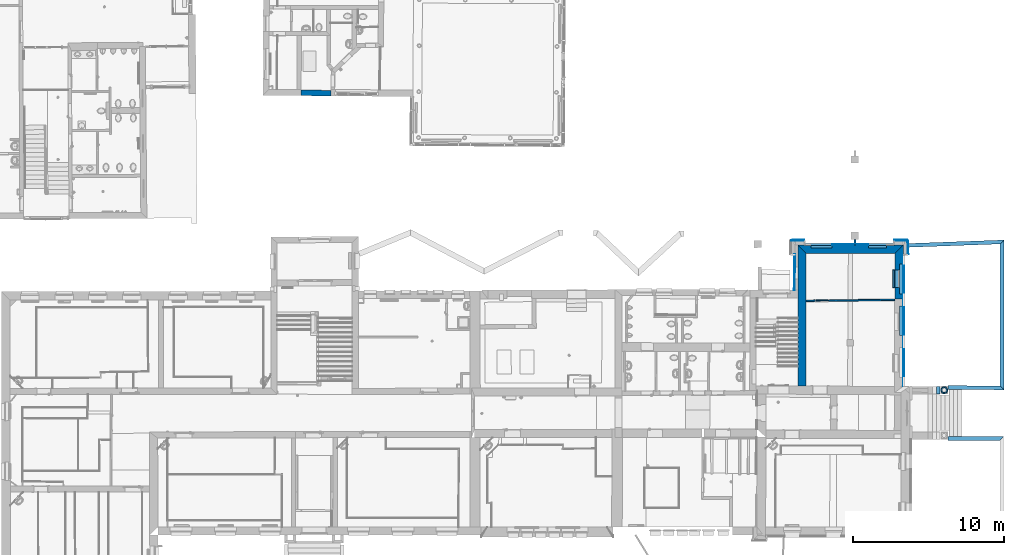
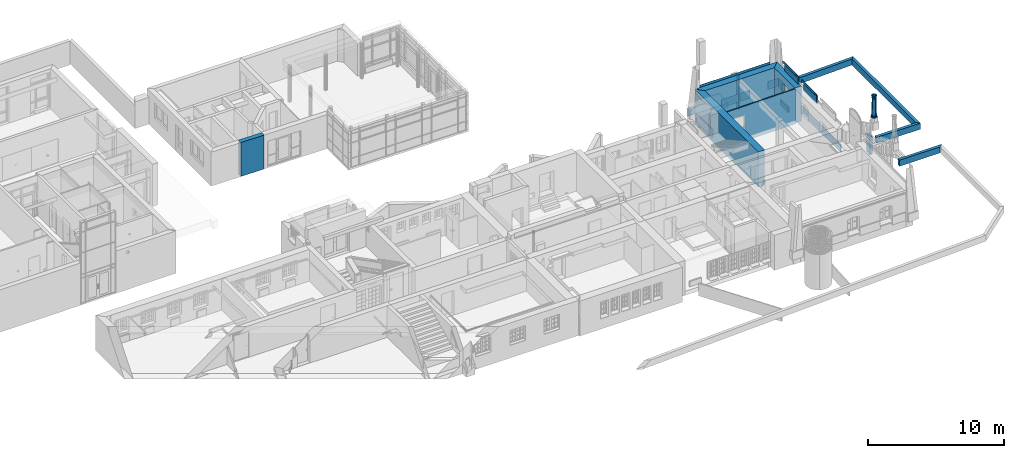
# One storey, part 54 of 196: 23 walls, 4 openings.
"""IFC2X3 building model written with IfcOpenShell, lengths in metres."""

from ifc_helpers import new_model, entity, si_unit, converted_unit, derived_unit, money_unit, point, direction, frame, frame_2d, origin_with_axes, origin_2d_with_axis, place, context, subcontext, project, spatial, polyline, circle_curve, parameter, trimmed, segment, composite_curve, rectangle, outline, extrude, material, layer, layer_set, layer_usage, type_object, element, save


model = new_model("IFC2X3")

# Units and contexts
model_context = context("Model", 3, precision=1e-05, world=origin_with_axes(), true_north=direction((0.0, 1.0)))
body_context = subcontext(model_context, "Body", "Model", "MODEL_VIEW")
ifc_project = project(units=[si_unit("LENGTHUNIT", "METRE"), si_unit("AREAUNIT", "SQUARE_METRE"), si_unit("VOLUMEUNIT", "CUBIC_METRE"), converted_unit("PLANEANGLEUNIT", "DEGREE", entity("IfcPlaneAngleMeasure", 0.0174532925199), si_unit("PLANEANGLEUNIT", "RADIAN"), dimensions=[0, 0, 0, 0, 0, 0, 0]), money_unit("EUR"), converted_unit("TIMEUNIT", "Year", entity("IfcTimeMeasure", 31556926.0), si_unit("TIMEUNIT", "SECOND"), dimensions=[0, 0, 1, 0, 0, 0, 0]), si_unit("MASSUNIT", "GRAM", prefix="KILO"), si_unit("THERMODYNAMICTEMPERATUREUNIT", "DEGREE_CELSIUS"), si_unit("LUMINOUSINTENSITYUNIT", "LUMEN"), si_unit("ENERGYUNIT", "JOULE", prefix="MEGA"), derived_unit("THERMALCONDUCTANCEUNIT", [(si_unit("POWERUNIT", "WATT"), 1), (si_unit("LENGTHUNIT", "METRE"), -1), (si_unit("THERMODYNAMICTEMPERATUREUNIT", "KELVIN"), -1)]), derived_unit("SPECIFICHEATCAPACITYUNIT", [(si_unit("ENERGYUNIT", "JOULE"), 1), (si_unit("MASSUNIT", "GRAM", prefix="KILO"), -1), (si_unit("THERMODYNAMICTEMPERATUREUNIT", "KELVIN"), -1)]), derived_unit("MASSDENSITYUNIT", [(si_unit("MASSUNIT", "GRAM", prefix="KILO"), 1), (si_unit("VOLUMEUNIT", "CUBIC_METRE"), -1)])], contexts=[model_context])

# Site, building, storey
site_placement = place(None, origin_with_axes())
site = spatial("IfcSite", under=ifc_project, at=site_placement, Name="Gelände", CompositionType="ELEMENT")
building_placement = place(site_placement, origin_with_axes())
building = spatial("IfcBuilding", under=site, at=building_placement, Name="Gebäude", CompositionType="ELEMENT")
storey_placement = place(building_placement, frame((0.0, 0.0, -3.0), z_axis=(0.0, 0.0, 1.0), x_axis=(1.0, 0.0, 0.0)))
storey = spatial("IfcBuildingStorey", under=building, at=storey_placement, Name="KELLERGESCHOSS", CompositionType="ELEMENT", Elevation=-3.0)

# Wall, opening
ifc_material_1 = material(Name="05_ALLGEMEIN - TRAGENDE BAUTEILE")
ifc_layer_1 = layer(ifc_material_1, 0.1, ventilated="UNKNOWN")
ifc_layer_set_1 = layer_set([ifc_layer_1], Name="05_ALLGEMEIN - TRAGENDE BAUTEILE 0.1")
ifc_layer_usage_1 = layer_usage(ifc_layer_set_1, "AXIS2", "POSITIVE", -0.1)
wall_type_1 = type_object("IfcWallType", Name="05_ALLGEMEIN - TRAGENDE BAUTEILE 100", PredefinedType="ELEMENTEDWALL")
wall_1_placement = place(storey_placement, frame((24.6727134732, 25.5107792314, -0.36), z_axis=(0.0, 0.0, 1.0), x_axis=(0.999936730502, 0.0112487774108, 0.0)))
wall_1 = element("IfcWallStandardCase", 1, at=wall_1_placement, inside=storey, type_object=wall_type_1, material=ifc_layer_usage_1, Name="Wand-039", ObjectType="ELEMENTEDWALL", context=body_context, shape_type="SweptSolid", body=[
    extrude(outline(polyline([(0.553286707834, -0.1), (6.42175266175, -0.1), (6.42284391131, 0.0), (0.554426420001, 0.0), (0.553286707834, -0.1)])), origin_with_axes(), (0.0, 0.0, 1.0), 3.15),
])
opening_1_placement = place(wall_1_placement, frame((1.60711637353, 0.0, 0.333848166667), z_axis=(0.0, 0.0, 1.0), x_axis=(1.0, 0.0, 0.0)))
element("IfcOpeningElement", 2, at=opening_1_placement, cuts=wall_1, Name="Tür-022", context=body_context, shape_type="SweptSolid", body=[
    extrude(rectangle(XDim=0.850611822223, YDim=2.00126, at=origin_2d_with_axis()), frame((0.0, -0.1, 1.00063), z_axis=(0.0, 1.0, 0.0), x_axis=(-1.0, 0.0, 0.0)), (0.0, 0.0, 1.0), 0.3),
])

# Walls
ifc_layer_2 = layer(ifc_material_1, 0.250000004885, ventilated="UNKNOWN")
ifc_layer_set_2 = layer_set([ifc_layer_2], Name="05_ALLGEMEIN - TRAGENDE BAUTEILE 0.25")
ifc_layer_usage_2 = layer_usage(ifc_layer_set_2, "AXIS2", "POSITIVE", 0.0)
wall_type_2 = type_object("IfcWallType", Name="05_ALLGEMEIN - TRAGENDE BAUTEILE 250", PredefinedType="ELEMENTEDWALL")
wall_2_placement = place(storey_placement, frame((34.6361364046, 19.5986464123, 0.212), z_axis=(0.0, 0.0, 1.0), x_axis=(0.999963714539, -0.00851877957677, 0.0)))
element("IfcWallStandardCase", 3, at=wall_2_placement, inside=storey, type_object=wall_type_2, material=ifc_layer_usage_2, Name="Wand-034", ObjectType="ELEMENTEDWALL", context=body_context, shape_type="SweptSolid", body=[
    extrude(outline(polyline([(0.0, 0.0), (3.69503077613, 0.0), (3.44314111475, 0.25), (0.0, 0.25), (0.0, 0.0)])), origin_with_axes(), (0.0, 0.0, 1.0), 0.55),
])
ifc_layer_usage_3 = layer_usage(ifc_layer_set_2, "AXIS2", "POSITIVE", 0.0)
wall_3_placement = place(storey_placement, frame((38.3310331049, 19.5671692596, 0.212), z_axis=(0.0, 0.0, 1.0), x_axis=(0.000988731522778, 0.999999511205, 0.0)))
element("IfcWallStandardCase", 4, at=wall_3_placement, inside=storey, type_object=wall_type_2, material=ifc_layer_usage_3, Name="Wand-035", ObjectType="ELEMENTEDWALL", context=body_context, shape_type="SweptSolid", body=[
    extrude(outline(polyline([(0.0, 0.0), (9.93154095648, 0.0), (9.67196997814, 0.25), (0.251889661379, 0.25), (0.0, 0.0)])), origin_with_axes(), (0.0, 0.0, 1.0), 0.55),
])
ifc_layer_usage_4 = layer_usage(ifc_layer_set_2, "AXIS2", "POSITIVE", 0.0)
wall_4_placement = place(storey_placement, frame((38.3408527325, 29.4987053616, 0.212), z_axis=(0.0, 0.0, 1.0), x_axis=(-0.999331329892, -0.0365635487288, 0.0)))
element("IfcWallStandardCase", 5, at=wall_4_placement, inside=storey, type_object=wall_type_2, material=ifc_layer_usage_4, Name="Wand-036", ObjectType="ELEMENTEDWALL", context=body_context, shape_type="SweptSolid", body=[
    extrude(outline(polyline([(0.0, 0.0), (6.33317379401, 0.0), (6.33317379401, 0.25), (0.259570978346, 0.25), (0.0, 0.0)])), origin_with_axes(), (0.0, 0.0, 1.0), 0.55),
])
ifc_layer_usage_5 = layer_usage(ifc_layer_set_2, "AXIS2", "POSITIVE", 0.0)
wall_5_placement = place(storey_placement, frame((34.6292741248, 16.2091750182, 0.212), z_axis=(0.0, 0.0, 1.0), x_axis=(0.9999999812, -0.000193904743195, 0.0)))
element("IfcWallStandardCase", 6, at=wall_5_placement, inside=storey, type_object=wall_type_2, material=ifc_layer_usage_5, Name="Wand-037", ObjectType="ELEMENTEDWALL", context=body_context, shape_type="SweptSolid", body=[
    extrude(outline(polyline([(0.0, 0.0), (3.43821380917, 0.0), (3.68821380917, 0.25), (0.0, 0.25), (0.0, 0.0)])), origin_with_axes(), (0.0, 0.0, 1.0), 0.55),
])
ifc_material_2 = material(Name="01_ALLGEMEIN - BAUTEIL")
ifc_layer_3 = layer(ifc_material_2, 0.105, ventilated="UNKNOWN")
ifc_layer_set_3 = layer_set([ifc_layer_3], Name="01_ALLGEMEIN - BAUTEIL 0.105")
ifc_layer_usage_6 = layer_usage(ifc_layer_set_3, "AXIS2", "NEGATIVE", 0.0)
wall_type_3 = type_object("IfcWallType", Name="01_ALLGEMEIN - BAUTEIL 105", PredefinedType="ELEMENTEDWALL")
wall_6_placement = place(storey_placement, frame((30.9806363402, 26.3287274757, 0.147079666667), z_axis=(0.0, 0.0, 1.0), x_axis=(-0.00214551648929, 0.999997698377, 0.0)))
element("IfcWallStandardCase", 7, at=wall_6_placement, inside=storey, type_object=wall_type_3, material=ifc_layer_usage_6, Name="Wand-039", ObjectType="ELEMENTEDWALL", context=body_context, shape_type="SweptSolid", body=[
    extrude(outline(polyline([(0.0, -0.105), (1.19556545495, -0.105), (1.19556545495, 0.0), (0.0, 0.0), (0.0, -0.105)])), origin_with_axes(), (0.0, 0.0, 1.0), 0.485031),
])

# Wall, openings
ifc_layer_4 = layer(ifc_material_1, 0.56, ventilated="UNKNOWN")
ifc_layer_set_4 = layer_set([ifc_layer_4], Name="05_ALLGEMEIN - TRAGENDE BAUTEILE 0.56")
ifc_layer_usage_7 = layer_usage(ifc_layer_set_4, "AXIS2", "NEGATIVE", 0.56)
wall_type_4 = type_object("IfcWallType", Name="05_ALLGEMEIN - TRAGENDE BAUTEILE 560", PredefinedType="ELEMENTEDWALL")
wall_7_placement = place(storey_placement, frame((31.6739429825, 29.1682988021, -0.36), z_axis=(0.0, 0.0, 1.0), x_axis=(-0.999999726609, -0.000739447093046, 0.0)))
wall_7 = element("IfcWallStandardCase", 8, at=wall_7_placement, inside=storey, type_object=wall_type_4, material=ifc_layer_usage_7, Name="Wand-030", ObjectType="ELEMENTEDWALL", context=body_context, shape_type="SweptSolid", body=[
    extrude(outline(polyline([(0.0, 0.0), (7.00069228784, 0.0), (6.44679840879, 0.56), (0.560225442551, 0.56), (0.0, 0.0)])), origin_with_axes(), (0.0, 0.0, 1.0), 3.15),
])
opening_2_placement = place(wall_7_placement, frame((5.43124934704, 0.0, 0.697155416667), z_axis=(0.0, 0.0, 1.0), x_axis=(1.0, 0.0, 0.0)))
element("IfcOpeningElement", 9, at=opening_2_placement, cuts=wall_7, Name="Fenster-015", ObjectType="Recess", context=body_context, shape_type="SweptSolid", body=[
    extrude(outline(polyline([(-0.698111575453, 0.0), (-0.698111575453, -1.80799998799), (-0.47839749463, -1.91444294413), (-0.243146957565, -1.97972363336), (8.41109260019e-09, -2.001722), (0.243146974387, -1.97972363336), (0.478397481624, -1.91444294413), (0.698111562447, -1.80799998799), (0.698112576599, -1.8079000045), (0.698111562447, 0.0), (-0.698111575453, 0.0)])), frame((0.0, 0.207501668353, 0.0), z_axis=(0.0, -1.0, 0.0), x_axis=(-1.0, 0.0, 0.0)), (0.0, 0.0, 1.0), 0.767501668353),
])
opening_3_placement = place(wall_7_placement, frame((1.72561533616, 0.0, 0.697155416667), z_axis=(0.0, 0.0, 1.0), x_axis=(1.0, 0.0, 0.0)))
element("IfcOpeningElement", 10, at=opening_3_placement, cuts=wall_7, Name="Fenster-015", ObjectType="Recess", context=body_context, shape_type="SweptSolid", body=[
    extrude(outline(polyline([(-0.6, 0.0), (-0.6, -1.80799998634), (-0.442725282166, -1.90128984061), (-0.271388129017, -1.96517968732), (-0.0914307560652, -1.99764011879), (0.0914307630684, -1.99764011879), (0.27138813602, -1.96517968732), (0.442725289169, -1.90128984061), (0.600000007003, -1.80799998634), (0.60000098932, -1.80789999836), (0.600000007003, 0.0), (-0.6, 0.0)])), frame((0.0, 0.207501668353, 0.0), z_axis=(0.0, -1.0, 0.0), x_axis=(-1.0, 0.0, 0.0)), (0.0, 0.0, 1.0), 0.767501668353),
])

# Wall, opening
ifc_layer_usage_8 = layer_usage(ifc_layer_set_4, "AXIS2", "NEGATIVE", 0.56)
wall_8_placement = place(storey_placement, frame((31.6751488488, 25.5895530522, -0.36), z_axis=(0.0, 0.0, 1.0), x_axis=(-0.000336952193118, 0.999999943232, 0.0)))
wall_8 = element("IfcWallStandardCase", 11, at=wall_8_placement, inside=storey, type_object=wall_type_4, material=ifc_layer_usage_8, Name="Wand-038", ObjectType="ELEMENTEDWALL", context=body_context, shape_type="SweptSolid", body=[
    extrude(outline(polyline([(0.0, 0.0), (3.57874595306, 0.0), (3.01852051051, 0.56), (0.0, 0.56), (0.0, 0.0)])), origin_with_axes(), (0.0, 0.0, 1.0), 3.15),
])
opening_4_placement = place(wall_8_placement, frame((1.33445511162, 0.0, 1.39579666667), z_axis=(0.0, 0.0, 1.0), x_axis=(1.0, 0.0, 0.0)))
element("IfcOpeningElement", 12, at=opening_4_placement, cuts=wall_8, Name="Fenster-015", context=body_context, shape_type="SweptSolid", body=[
    extrude(outline(polyline([(0.581905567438, 0.0), (0.581905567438, 1.0), (0.471737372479, 1.04926610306), (0.357452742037, 1.08803726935), (0.240048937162, 1.11597517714), (0.120550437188, 1.13283603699), (0.0, 1.13847271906), (-0.120550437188, 1.13283603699), (-0.240048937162, 1.11597517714), (-0.357452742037, 1.08803726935), (-0.471737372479, 1.04926610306), (-0.581905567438, 1.0), (-0.581905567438, 0.0), (0.581905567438, 0.0)])), frame((0.0, 0.266646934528, 0.0), z_axis=(0.0, -1.0, 0.0), x_axis=(1.0, 0.0, 0.0)), (0.0, 0.0, -1.0), 0.853353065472),
    extrude(outline(polyline([(-0.511905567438, 0.0), (-0.511905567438, -0.956074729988), (-0.389248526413, -1.00481559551), (-0.262049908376, -1.04004247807), (-0.131793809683, -1.0613443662), (0.0, -1.06847271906), (0.131793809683, -1.0613443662), (0.262049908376, -1.04004247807), (0.389248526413, -1.00481559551), (0.511905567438, -0.956074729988), (0.511905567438, 0.0), (-0.511905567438, 0.0)])), frame((0.0, 0.266646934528, 0.0), z_axis=(0.0, 1.0, 0.0), x_axis=(1.0, 0.0, 0.0)), (0.0, 0.0, -1.0), 0.826646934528),
])

# Walls
ifc_layer_5 = layer(ifc_material_1, 0.504364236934, ventilated="UNKNOWN")
ifc_layer_set_5 = layer_set([ifc_layer_5], Name="05_ALLGEMEIN - TRAGENDE BAUTEILE 0.504364")
ifc_layer_usage_9 = layer_usage(ifc_layer_set_5, "AXIS2", "NEGATIVE", 0.504364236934)
wall_type_5 = type_object("IfcWallType", Name="05_ALLGEMEIN - TRAGENDE BAUTEILE 504", PredefinedType="ELEMENTEDWALL")
wall_9_placement = place(storey_placement, frame((34.1097566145, 19.790449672, -0.36), z_axis=(0.0, 0.0, 1.0), x_axis=(-0.999975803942, 0.00695640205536, 0.0)))
element("IfcWallStandardCase", 13, at=wall_9_placement, inside=storey, type_object=wall_type_5, material=ifc_layer_usage_9, Name="Wand-043", ObjectType="ELEMENTEDWALL", context=body_context, shape_type="SweptSolid", body=[
    extrude(outline(polyline([(0.0, 0.0), (0.236340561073, 0.0), (0.236340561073, 0.504364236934), (0.0, 0.504364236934), (0.0, 0.0)])), origin_with_axes(), (0.0, 0.0, 1.0), 1.611),
])
ifc_layer_6 = layer(ifc_material_1, 0.125, ventilated="UNKNOWN")
ifc_layer_set_6 = layer_set([ifc_layer_6], Name="05_ALLGEMEIN - TRAGENDE BAUTEILE 0.125")
ifc_layer_usage_10 = layer_usage(ifc_layer_set_6, "AXIS2", "NEGATIVE", 0.125)
wall_type_6 = type_object("IfcWallType", Name="05_ALLGEMEIN - TRAGENDE BAUTEILE 125", PredefinedType="ELEMENTEDWALL")
wall_10_placement = place(storey_placement, frame((28.4008558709, 29.5272925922, -0.36), z_axis=(0.0, 0.0, 1.0), x_axis=(0.00451175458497, -0.999989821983, 0.0)))
element("IfcWallStandardCase", 14, at=wall_10_placement, inside=storey, type_object=wall_type_6, material=ifc_layer_usage_10, Name="Wand-030", ObjectType="ELEMENTEDWALL", context=body_context, shape_type="SweptSolid", body=[
    extrude(outline(polyline([(0.0, 0.0), (0.361416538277, 0.0), (0.361888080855, 0.125), (0.0, 0.125), (0.0, 0.0)])), origin_with_axes(), (0.0, 0.0, 1.0), 3.06),
])
ifc_layer_7 = layer(ifc_material_1, 0.37, ventilated="UNKNOWN")
ifc_layer_set_7 = layer_set([ifc_layer_7], Name="05_ALLGEMEIN - TRAGENDE BAUTEILE 0.37")
ifc_layer_usage_11 = layer_usage(ifc_layer_set_7, "AXIS2", "NEGATIVE", 0.37)
wall_type_7 = type_object("IfcWallType", Name="05_ALLGEMEIN - TRAGENDE BAUTEILE 370", PredefinedType="ELEMENTEDWALL")
wall_11_placement = place(storey_placement, frame((-8.25294138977, 39.0682594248, 0.44), z_axis=(0.0, 0.0, 1.0), x_axis=(0.99996602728, -0.0082428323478, 0.0)))
element("IfcWallStandardCase", 15, at=wall_11_placement, inside=storey, type_object=wall_type_7, material=ifc_layer_usage_11, Name="Wand-031", ObjectType="ELEMENTEDWALL", context=body_context, shape_type="SweptSolid", body=[
    extrude(outline(polyline([(0.0, 0.0), (1.97326033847, 0.0), (1.97326033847, 0.37), (0.0, 0.37), (0.0, 0.0)])), origin_with_axes(), (0.0, 0.0, 1.0), 3.06),
])
ifc_layer_8 = layer(ifc_material_1, 0.55439041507, ventilated="UNKNOWN")
ifc_layer_set_8 = layer_set([ifc_layer_8], Name="05_ALLGEMEIN - TRAGENDE BAUTEILE 0.55439")
ifc_layer_usage_12 = layer_usage(ifc_layer_set_8, "AXIS2", "POSITIVE", -0.55439041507)
wall_type_8 = type_object("IfcWallType", Name="05_ALLGEMEIN - TRAGENDE BAUTEILE 554", PredefinedType="ELEMENTEDWALL")
wall_12_placement = place(storey_placement, frame((24.6717928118, 19.2738099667, -0.36), z_axis=(0.0, 0.0, 1.0), x_axis=(0.000147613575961, 0.999999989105, 0.0)))
element("IfcWallStandardCase", 16, at=wall_12_placement, inside=storey, type_object=wall_type_8, material=ifc_layer_usage_12, Name="Wand-039", ObjectType="ELEMENTEDWALL", context=body_context, shape_type="SweptSolid", body=[
    extrude(outline(polyline([(0.546524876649, -0.55439041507), (9.3298038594, -0.55439041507), (9.88931230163, 0.0), (0.549413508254, 0.0), (0.546524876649, -0.55439041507)])), origin_with_axes(), (0.0, 0.0, 1.0), 3.15),
])
wall_type_9 = type_object("IfcWallType", Name="Stütze 117 x 1928", PredefinedType="ELEMENTEDWALL")
wall_13_placement = place(storey_placement, frame((34.3726610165, 19.7981363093, 2.75739419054), z_axis=(0.0, 0.0, 1.0), x_axis=(-0.999817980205, -0.0190789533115, 0.0)))
cartesian_point_1 = entity("IfcCartesianPoint", [0.0851968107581, 1.688739])
cartesian_point_2 = entity("IfcCartesianPoint", [0.0571737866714, 0.196739])
cartesian_point_3 = entity("IfcCartesianPoint", [0.0510952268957, 0.115063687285])
cartesian_point_4 = entity("IfcCartesianPoint", [0.0432145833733, 1.928458])
cartesian_point_5 = entity("IfcCartesianPoint", [0.0811007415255, 1.886749])
cartesian_point_6 = entity("IfcCartesianPoint", [0.0914956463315, 1.737441])
element("IfcWall", 17, at=wall_13_placement, inside=storey, type_object=wall_type_9, material=ifc_material_1, Name="Wand-069", ObjectType="ELEMENTEDWALL", context=body_context, shape_type="SweptSolid", body=[
    entity("IfcRevolvedAreaSolid", entity("IfcArbitraryClosedProfileDef", "AREA", None, entity("IfcCompositeCurve", [entity("IfcCompositeCurveSegment", "CONTINUOUS", True, entity("IfcPolyline", [cartesian_point_1, cartesian_point_2])), entity("IfcCompositeCurveSegment", "CONTINUOUS", True, entity("IfcTrimmedCurve", entity("IfcCircle", entity("IfcAxis2Placement2D", entity("IfcCartesianPoint", [0.0577272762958, 0.155633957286]), entity("IfcDirection", [-0.0134640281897, 0.999909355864])), 0.0411087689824), [cartesian_point_2, entity("IfcParameterValue", 0.0)], [cartesian_point_3, entity("IfcParameterValue", 169.944482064)], True, "CARTESIAN")), entity("IfcCompositeCurveSegment", "CONTINUOUS", True, entity("IfcPolyline", [cartesian_point_3, entity("IfcCartesianPoint", [0.0510952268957, 0.073549]), entity("IfcCartesianPoint", [0.0339839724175, 0.062344]), entity("IfcCartesianPoint", [0.0145262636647, 0.04314]), entity("IfcCartesianPoint", [0.0, 0.0]), entity("IfcCartesianPoint", [0.116531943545, 0.0]), entity("IfcCartesianPoint", [0.116531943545, 1.928458]), cartesian_point_4])), entity("IfcCompositeCurveSegment", "CONTINUOUS", True, entity("IfcTrimmedCurve", entity("IfcCircle", entity("IfcAxis2Placement2D", entity("IfcCartesianPoint", [0.0684504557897, 1.91331952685]), entity("IfcDirection", [-0.857538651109, 0.514419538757])), 0.029428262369), [cartesian_point_4, entity("IfcParameterValue", 0.0)], [cartesian_point_5, entity("IfcParameterValue", 146.417885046)], True, "CARTESIAN")), entity("IfcCompositeCurveSegment", "CONTINUOUS", True, entity("IfcPolyline", [cartesian_point_5, entity("IfcCartesianPoint", [0.0994803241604, 1.872894]), cartesian_point_6])), entity("IfcCompositeCurveSegment", "CONTINUOUS", True, entity("IfcTrimmedCurve", entity("IfcCircle", entity("IfcAxis2Placement2D", entity("IfcCartesianPoint", [0.0925637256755, 1.71254453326]), entity("IfcDirection", [-0.0428614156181, 0.99908102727])), 0.0249193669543), [cartesian_point_6, entity("IfcParameterValue", 0.0)], [cartesian_point_1, entity("IfcParameterValue", 160.348144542)], True, "CARTESIAN"))], False)), entity("IfcAxis2Placement3D", entity("IfcCartesianPoint", [0.0, 0.0, 0.0]), entity("IfcDirection", [1.0, 0.0, 0.0]), entity("IfcDirection", [0.0, 1.0, 0.0])), entity("IfcAxis1Placement", entity("IfcCartesianPoint", [0.25, 0.0, 0.0]), entity("IfcDirection", [0.0, 1.0, 0.0])), 180.0),
])
wall_14_placement = place(storey_placement, frame((34.3822004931, 19.2982273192, 2.75739419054), z_axis=(0.0, 0.0, 1.0), x_axis=(0.999817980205, 0.0190789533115, 0.0)))
cartesian_point_7 = entity("IfcCartesianPoint", [0.0851968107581, 1.688739])
cartesian_point_8 = entity("IfcCartesianPoint", [0.0571737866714, 0.196739])
cartesian_point_9 = entity("IfcCartesianPoint", [0.0510952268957, 0.115063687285])
cartesian_point_10 = entity("IfcCartesianPoint", [0.0432145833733, 1.928458])
cartesian_point_11 = entity("IfcCartesianPoint", [0.0811007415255, 1.886749])
cartesian_point_12 = entity("IfcCartesianPoint", [0.0914956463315, 1.737441])
element("IfcWall", 18, at=wall_14_placement, inside=storey, type_object=wall_type_9, material=ifc_material_1, Name="Wand-070", ObjectType="ELEMENTEDWALL", context=body_context, shape_type="SweptSolid", body=[
    entity("IfcRevolvedAreaSolid", entity("IfcArbitraryClosedProfileDef", "AREA", None, entity("IfcCompositeCurve", [entity("IfcCompositeCurveSegment", "CONTINUOUS", True, entity("IfcPolyline", [cartesian_point_7, cartesian_point_8])), entity("IfcCompositeCurveSegment", "CONTINUOUS", True, entity("IfcTrimmedCurve", entity("IfcCircle", entity("IfcAxis2Placement2D", entity("IfcCartesianPoint", [0.0577272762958, 0.155633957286]), entity("IfcDirection", [-0.0134640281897, 0.999909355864])), 0.0411087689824), [cartesian_point_8, entity("IfcParameterValue", 0.0)], [cartesian_point_9, entity("IfcParameterValue", 169.944482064)], True, "CARTESIAN")), entity("IfcCompositeCurveSegment", "CONTINUOUS", True, entity("IfcPolyline", [cartesian_point_9, entity("IfcCartesianPoint", [0.0510952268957, 0.073549]), entity("IfcCartesianPoint", [0.0339839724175, 0.062344]), entity("IfcCartesianPoint", [0.0145262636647, 0.04314]), entity("IfcCartesianPoint", [0.0, 0.0]), entity("IfcCartesianPoint", [0.116531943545, 0.0]), entity("IfcCartesianPoint", [0.116531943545, 1.928458]), cartesian_point_10])), entity("IfcCompositeCurveSegment", "CONTINUOUS", True, entity("IfcTrimmedCurve", entity("IfcCircle", entity("IfcAxis2Placement2D", entity("IfcCartesianPoint", [0.0684504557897, 1.91331952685]), entity("IfcDirection", [-0.857538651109, 0.514419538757])), 0.029428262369), [cartesian_point_10, entity("IfcParameterValue", 0.0)], [cartesian_point_11, entity("IfcParameterValue", 146.417885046)], True, "CARTESIAN")), entity("IfcCompositeCurveSegment", "CONTINUOUS", True, entity("IfcPolyline", [cartesian_point_11, entity("IfcCartesianPoint", [0.0994803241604, 1.872894]), cartesian_point_12])), entity("IfcCompositeCurveSegment", "CONTINUOUS", True, entity("IfcTrimmedCurve", entity("IfcCircle", entity("IfcAxis2Placement2D", entity("IfcCartesianPoint", [0.0925637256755, 1.71254453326]), entity("IfcDirection", [-0.0428614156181, 0.99908102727])), 0.0249193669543), [cartesian_point_12, entity("IfcParameterValue", 0.0)], [cartesian_point_7, entity("IfcParameterValue", 160.348144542)], True, "CARTESIAN"))], False)), entity("IfcAxis2Placement3D", entity("IfcCartesianPoint", [0.0, 0.0, 0.0]), entity("IfcDirection", [1.0, 0.0, 0.0]), entity("IfcDirection", [0.0, 1.0, 0.0])), entity("IfcAxis1Placement", entity("IfcCartesianPoint", [0.25, 0.0, 0.0]), entity("IfcDirection", [0.0, 1.0, 0.0])), 180.0),
])
wall_type_10 = type_object("IfcWallType", Name="Fassade Sims 2 100 x 317", PredefinedType="ELEMENTEDWALL")
wall_15_placement = place(storey_placement, frame((25.0934438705, 29.1634328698, 3.0001877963), z_axis=(0.0, 0.0, 1.0), x_axis=(0.999999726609, 0.000739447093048, 0.0)))
element("IfcWall", 19, at=wall_15_placement, inside=storey, type_object=wall_type_10, material=ifc_material_2, Name="Wand-072", ObjectType="ELEMENTEDWALL", context=body_context, shape_type="SweptSolid", body=[
    extrude(outline(composite_curve([segment(polyline([(0.0803683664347, -0.186906), (0.0895185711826, -0.093362), (0.0995232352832, -0.087582), (0.0998272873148, -0.082979), (0.0954028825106, -0.076844), (0.0345157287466, -0.016522), (0.0, 0.0), (0.0, -0.316717), (0.0018235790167, -0.316717), (0.0200141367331, -0.312632), (0.0311727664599, -0.240312)]), True, "CONTINUOUS"), segment(trimmed(circle_curve(frame_2d((0.0901432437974, -0.245271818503), x_axis=(-0.165175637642, 0.986264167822)), 0.0591786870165), [point((0.0311727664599, -0.240312)), parameter(75.6849122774)], [point((0.0803683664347, -0.186906)), parameter(0.0)], False, "CARTESIAN"), True, "CONTINUOUS")], self_intersect=False)), frame((0.0, 0.0, 0.0), z_axis=(1.0, 0.0, 0.0), x_axis=(0.0, 1.0, 0.0)), (0.0, 0.0, 1.0), 5.97780823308),
])
wall_type_11 = type_object("IfcWallType", Name="Fassade Sims 3 354 x 1078", PredefinedType="ELEMENTEDWALL")
for number, where, z_axis, x_axis, name in (
    (20, (31.419874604, 27.9048418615, 3.7610087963), (0.0, 0.0, 1.0), (0.000336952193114, -0.999999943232, 0.0), "Wand-072"),
    (21, (31.4208062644, 25.1398789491, 3.7610087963), (0.0, 0.0, 1.0), (0.000336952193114, -0.999999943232, 0.0), "Wand-072"),
):
    element("IfcWall", number, at=place(storey_placement, frame(where, z_axis=z_axis, x_axis=x_axis)), inside=storey, type_object=wall_type_11, material=ifc_material_2, Name=name, ObjectType="ELEMENTEDWALL", context=body_context, shape_type="SweptSolid", body=[
        extrude(outline(composite_curve([segment(polyline([(0.14560494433, -0.148592), (0.0, 0.0), (0.0, -0.22495), (0.159572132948, -0.22495), (0.159572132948, -1.077538), (0.254494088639, -1.077538), (0.256317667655, -1.077538), (0.274508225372, -1.073453), (0.285666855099, -1.001133)]), True, "CONTINUOUS"), segment(trimmed(circle_curve(frame_2d((0.344637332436, -1.0060928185), x_axis=(-0.165175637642, 0.986264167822)), 0.0591786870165), [point((0.285666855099, -1.001133)), parameter(75.6849122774)], [point((0.334862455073, -0.947727)), parameter(0.0)], False, "CARTESIAN"), True, "CONTINUOUS"), segment(polyline([(0.334862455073, -0.947727), (0.344012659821, -0.854183), (0.354017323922, -0.848403), (0.354321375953, -0.8438), (0.349896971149, -0.837665), (0.289009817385, -0.777343), (0.254494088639, -0.760821), (0.249258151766, -0.387927)]), True, "CONTINUOUS"), segment(trimmed(circle_curve(frame_2d((0.192385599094, -0.368027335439), x_axis=(0.943887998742, -0.330265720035)), 0.0602534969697), [point((0.249258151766, -0.387927)), parameter(0.0)], [point((0.189541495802, -0.307841)), parameter(111.990401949)], True, "CARTESIAN"), True, "CONTINUOUS"), segment(polyline([(0.189541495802, -0.307841), (0.203652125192, -0.237894), (0.20373926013, -0.22495), (0.14560494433, -0.148592)]), True, "CONTINUOUS")], self_intersect=False)), frame((0.0, 0.0, 0.0), z_axis=(1.0, 0.0, 0.0), x_axis=(0.0, 1.0, 0.0)), (0.0, 0.0, 1.0), 1.97800129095),
    ])
wall_type_12 = type_object("IfcWallType", Name="Sockel 1 59 x 750", PredefinedType="ELEMENTEDWALL")
wall_16_placement = place(storey_placement, frame((24.4774802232, 26.1710077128, 1.05914340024), z_axis=(0.0, 0.0, 1.0), x_axis=(0.00729687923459, 0.999973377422, 0.0)))
element("IfcWall", 22, at=wall_16_placement, inside=storey, type_object=wall_type_12, material=ifc_material_2, Name="Wand-074", ObjectType="ELEMENTEDWALL", context=body_context, shape_type="SweptSolid", body=[
    extrude(outline(composite_curve([segment(polyline([(0.0582254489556, -0.75), (0.0575648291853, -0.072488)]), True, "CONTINUOUS"), segment(trimmed(circle_curve(frame_2d((0.00752199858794, -0.0589368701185), x_axis=(0.965236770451, -0.261377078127)), 0.0518451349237), [point((0.0575648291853, -0.072488)), parameter(0.0)], [point((0.0162927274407, -0.007839)), parameter(95.4121261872)], True, "CARTESIAN"), True, "CONTINUOUS"), segment(polyline([(0.0162927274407, -0.007839), (0.00232171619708, 0.0), (0.0, 0.0), (0.0, -0.75), (0.0582254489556, -0.75)]), True, "CONTINUOUS")], self_intersect=False)), frame((0.0, 0.0, 0.0), z_axis=(1.0, 0.0, 0.0), x_axis=(0.0, 1.0, 0.0)), (0.0, 0.0, 1.0), 2.37154598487),
])
wall_17_placement = place(storey_placement, frame((26.9408065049, 29.1647988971, 1.05914340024), z_axis=(0.0, 0.0, 1.0), x_axis=(0.999999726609, 0.000739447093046, 0.0)))
element("IfcWall", 23, at=wall_17_placement, inside=storey, type_object=wall_type_12, material=ifc_material_2, Name="Wand-074", ObjectType="ELEMENTEDWALL", context=body_context, shape_type="SweptSolid", body=[
    extrude(outline(composite_curve([segment(polyline([(0.0582254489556, -0.75), (0.0575648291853, -0.072488)]), True, "CONTINUOUS"), segment(trimmed(circle_curve(frame_2d((0.00752199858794, -0.0589368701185), x_axis=(0.965236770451, -0.261377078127)), 0.0518451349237), [point((0.0575648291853, -0.072488)), parameter(0.0)], [point((0.0162927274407, -0.007839)), parameter(95.4121261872)], True, "CARTESIAN"), True, "CONTINUOUS"), segment(polyline([(0.0162927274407, -0.007839), (0.00232171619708, 0.0), (0.0, 0.0), (0.0, -0.75), (0.0582254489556, -0.75)]), True, "CONTINUOUS")], self_intersect=False)), frame((0.0, 0.0, 0.0), z_axis=(1.0, 0.0, 0.0), x_axis=(0.0, 1.0, 0.0)), (0.0, 0.0, 1.0), 2.40752243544),
])
wall_18_placement = place(storey_placement, frame((31.6741722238, 28.4879612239, 1.05914340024), z_axis=(0.0, 0.0, 1.0), x_axis=(0.000336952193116, -0.999999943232, 0.0)))
element("IfcWall", 24, at=wall_18_placement, inside=storey, type_object=wall_type_12, material=ifc_material_2, Name="Wand-076", ObjectType="ELEMENTEDWALL", context=body_context, shape_type="SweptSolid", body=[
    extrude(outline(composite_curve([segment(polyline([(0.0582254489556, -0.75), (0.0575648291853, -0.072488)]), True, "CONTINUOUS"), segment(trimmed(circle_curve(frame_2d((0.00752199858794, -0.0589368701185), x_axis=(0.965236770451, -0.261377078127)), 0.0518451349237), [point((0.0575648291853, -0.072488)), parameter(0.0)], [point((0.0162927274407, -0.007839)), parameter(95.4121261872)], True, "CARTESIAN"), True, "CONTINUOUS"), segment(polyline([(0.0162927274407, -0.007839), (0.00232171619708, 0.0), (0.0, 0.0), (0.0, -0.75), (0.0582254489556, -0.75)]), True, "CONTINUOUS")], self_intersect=False)), frame((0.0, 0.0, 0.0), z_axis=(1.0, 0.0, 0.0), x_axis=(0.0, 1.0, 0.0)), (0.0, 0.0, 1.0), 8.68056826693),
])
wall_19_placement = place(storey_placement, frame((31.9506711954, 28.5594837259, 1.05914340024), z_axis=(0.0, 0.0, 1.0), x_axis=(-0.00915176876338, 0.999958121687, 0.0)))
element("IfcWall", 25, at=wall_19_placement, inside=storey, type_object=wall_type_12, material=ifc_material_2, Name="Wand-077", ObjectType="ELEMENTEDWALL", context=body_context, shape_type="SweptSolid", body=[
    extrude(outline(composite_curve([segment(polyline([(0.0582254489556, -0.75), (0.0575648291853, -0.072488)]), True, "CONTINUOUS"), segment(trimmed(circle_curve(frame_2d((0.00752199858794, -0.0589368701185), x_axis=(0.965236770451, -0.261377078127)), 0.0518451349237), [point((0.0575648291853, -0.072488)), parameter(0.0)], [point((0.0162927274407, -0.007839)), parameter(95.4121261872)], True, "CARTESIAN"), True, "CONTINUOUS"), segment(polyline([(0.0162927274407, -0.007839), (0.00232171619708, 0.0), (0.0, 0.0), (0.0, -0.75), (0.0582254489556, -0.75)]), True, "CONTINUOUS")], self_intersect=False)), frame((0.0, 0.0, 0.0), z_axis=(-1.0, 0.0, 0.0), x_axis=(0.0, -1.0, 0.0)), (0.0, 0.0, -1.0), 0.895409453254),
])
wall_20_placement = place(storey_placement, frame((31.9424766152, 29.4548556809, 1.05914340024), z_axis=(0.0, 0.0, 1.0), x_axis=(-0.999930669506, 0.0117752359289, 0.0)))
element("IfcWall", 26, at=wall_20_placement, inside=storey, type_object=wall_type_12, material=ifc_material_2, Name="Wand-078", ObjectType="ELEMENTEDWALL", context=body_context, shape_type="SweptSolid", body=[
    extrude(outline(composite_curve([segment(polyline([(0.0582254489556, -0.75), (0.0575648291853, -0.072488)]), True, "CONTINUOUS"), segment(trimmed(circle_curve(frame_2d((0.00752199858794, -0.0589368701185), x_axis=(0.965236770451, -0.261377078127)), 0.0518451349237), [point((0.0575648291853, -0.072488)), parameter(0.0)], [point((0.0162927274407, -0.007839)), parameter(95.4121261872)], True, "CARTESIAN"), True, "CONTINUOUS"), segment(polyline([(0.0162927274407, -0.007839), (0.00232171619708, 0.0), (0.0, 0.0), (0.0, -0.75), (0.0582254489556, -0.75)]), True, "CONTINUOUS")], self_intersect=False)), frame((0.0, 0.0, 0.0), z_axis=(-1.0, 0.0, 0.0), x_axis=(0.0, -1.0, 0.0)), (0.0, 0.0, -1.0), 0.868636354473),
])
wall_21_placement = place(storey_placement, frame((24.2285356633, 29.4403742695, 1.05914340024), z_axis=(0.0, 0.0, 1.0), x_axis=(0.999930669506, 0.0117752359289, 0.0)))
element("IfcWall", 27, at=wall_21_placement, inside=storey, type_object=wall_type_12, material=ifc_material_2, Name="Wand-078", ObjectType="ELEMENTEDWALL", context=body_context, shape_type="SweptSolid", body=[
    extrude(outline(composite_curve([segment(polyline([(0.0582254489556, -0.75), (0.0575648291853, -0.072488)]), True, "CONTINUOUS"), segment(trimmed(circle_curve(frame_2d((0.00752199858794, -0.0589368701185), x_axis=(0.965236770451, -0.261377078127)), 0.0518451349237), [point((0.0575648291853, -0.072488)), parameter(0.0)], [point((0.0162927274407, -0.007839)), parameter(95.4121261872)], True, "CARTESIAN"), True, "CONTINUOUS"), segment(polyline([(0.0162927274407, -0.007839), (0.00232171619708, 0.0), (0.0, 0.0), (0.0, -0.75), (0.0582254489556, -0.75)]), True, "CONTINUOUS")], self_intersect=False)), frame((0.0, 0.0, 0.0), z_axis=(1.0, 0.0, 0.0), x_axis=(0.0, 1.0, 0.0)), (0.0, 0.0, 1.0), 0.868636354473),
])

save(model, "model.ifc")
